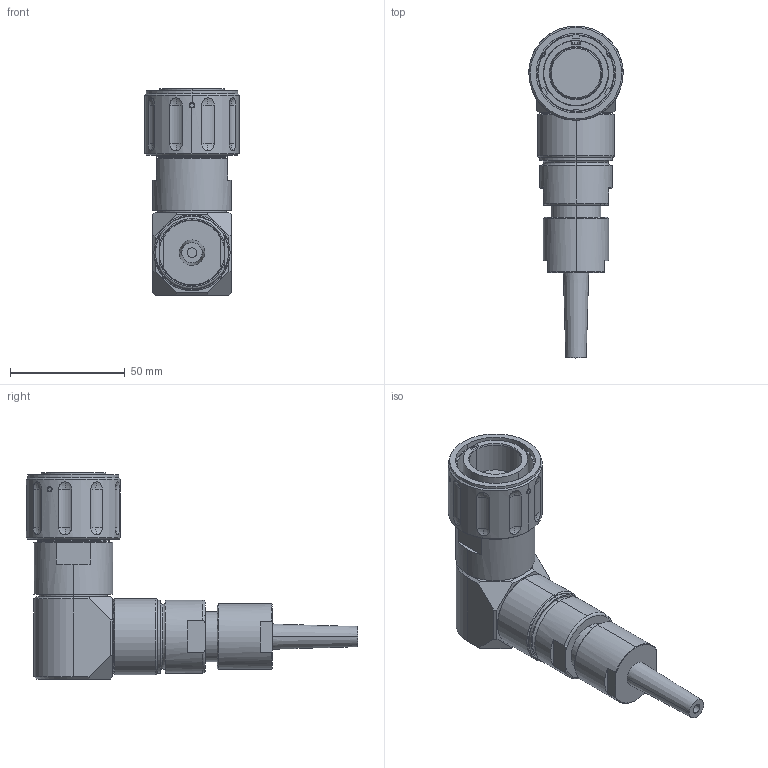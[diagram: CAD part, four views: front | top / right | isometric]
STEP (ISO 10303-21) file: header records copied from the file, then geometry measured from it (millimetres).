
FILE_DESCRIPTION (( 'STEP AP214' ), '1' );
FILE_NAME ('QLINK90-PGBX-19XX-SXXX-RA.STEP', '2025-12-09T16:11:25', ( '' ), ( '' ), 'SwSTEP 2.0', 'SolidWorks 2024', '' );
FILE_SCHEMA (( 'AUTOMOTIVE_DESIGN' ));
Length unit declared in the file: millimetre
Products named in the file (1): QLINK90-PGBX-19XX-SXXX-RA
Bounding box: 41.15 x 144.84 x 90.04 mm (x, y, z)
Volume: 139080.8 mm3; surface area: 30173.6 mm2
Topology: 5 solids, 7 shells, 307 faces, 717 edges, 456 vertices
Faces by surface type: plane 94, cylinder 93, cone 59, sphere 36, torus 13, bspline 12
Entity records: 12891 total; most frequent: CARTESIAN_POINT 5823, DIRECTION 1497, ORIENTED_EDGE 1434, EDGE_CURVE 717, AXIS2_PLACEMENT_3D 604, VERTEX_POINT 456, EDGE_LOOP 349, CIRCLE 308
